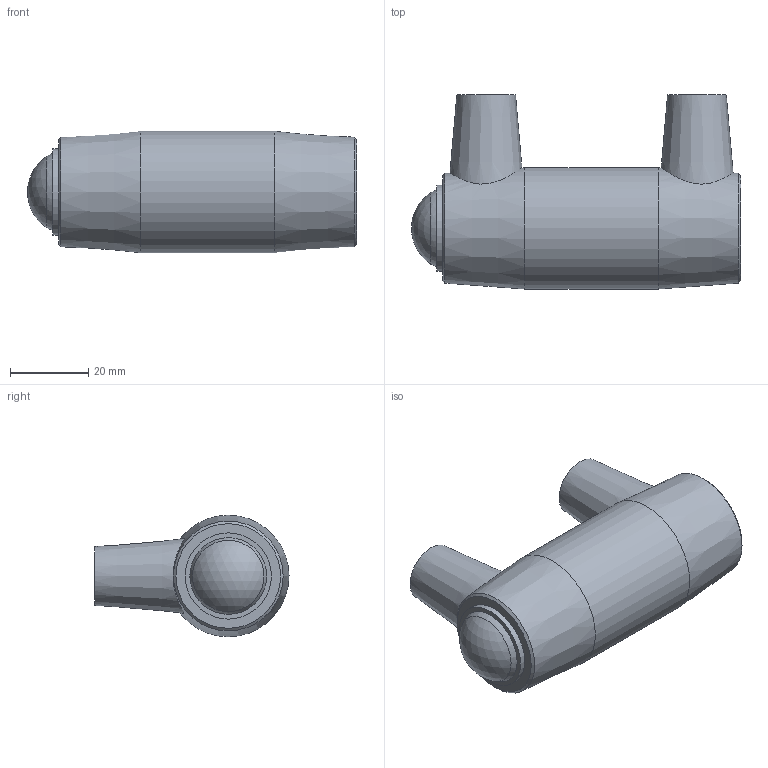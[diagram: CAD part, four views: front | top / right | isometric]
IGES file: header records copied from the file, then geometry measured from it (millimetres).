
Global section: file name: 491204020.ipt; native system: Autodesk Inventor 2015; preprocessor: unknown; author: KIM; date: 20171106.093747; units: millimetre
Bounding box: 83.93 x 49.5 x 31 mm (x, y, z)
Volume: 42047.2 mm3; surface area: 16333.6 mm2
Topology: 1 solids, 1 shells, 37 faces, 82 edges, 58 vertices
Faces by surface type: plane 13, revolution 13, cone 6, cylinder 4, sphere 1
Full cylindrical faces by diameter (mm): 4 x2, 22 x1, 31 x1
